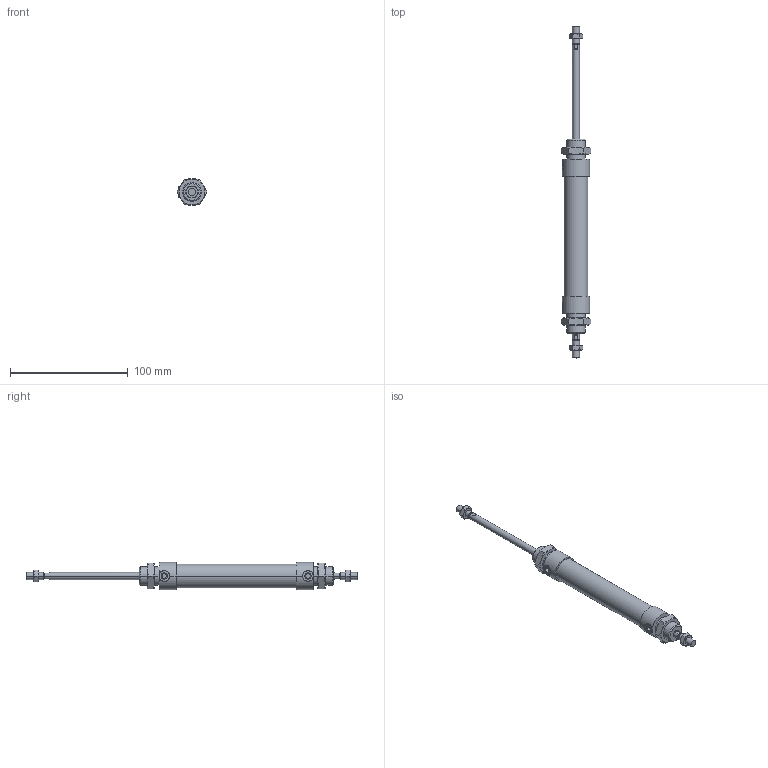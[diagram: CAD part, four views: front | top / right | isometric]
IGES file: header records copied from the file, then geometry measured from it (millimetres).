
Global section: file name: No Iges File Name specified; native system: AutoDesk Inventor R10; preprocessor: AutoDesk Inventor Iges Exporter R10; author: No Author specified; organization: No Organization specified; date: 20060105.143337; units: millimetre
Bounding box: 25.4 x 282 x 23 mm (x, y, z)
Volume: 57527.3 mm3; surface area: 22753.6 mm2
Topology: 6 solids, 6 shells, 184 faces, 394 edges, 230 vertices
Faces by surface type: cone 68, plane 58, cylinder 24, bspline 20, revolution 14
